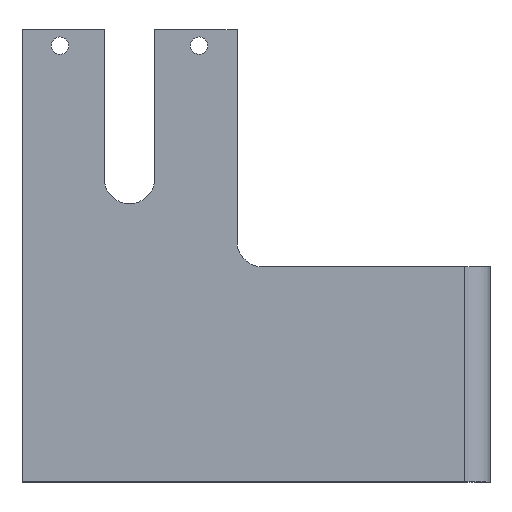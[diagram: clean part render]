
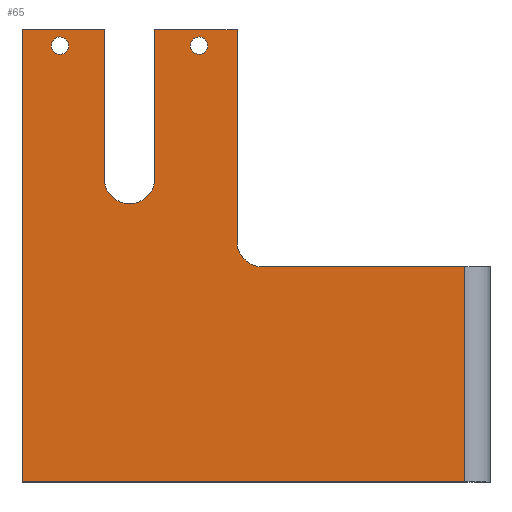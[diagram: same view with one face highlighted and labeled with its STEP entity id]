
A CAD part, top view. The second image highlights one B-rep face of the part: STEP entity #65.
In plain terms, the highlighted planar face has unit normal (0, 0, 1).
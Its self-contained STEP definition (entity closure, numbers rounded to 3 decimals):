
#65=ADVANCED_FACE('',(#172,#174,#176),#178,.F.);
#172=FACE_BOUND('',#173,.T.);
#173=EDGE_LOOP('',(#329));
#174=FACE_BOUND('',#175,.T.);
#175=EDGE_LOOP('',(#330));
#176=FACE_OUTER_BOUND('',#177,.T.);
#177=EDGE_LOOP('',(#331,#332,#333,#334,#335,#336,#337,#338,#339,#340,#341));
#178=PLANE('',#179);
#179=AXIS2_PLACEMENT_3D('',#180,#181,#182);
#180=CARTESIAN_POINT('',(0.,0.,4.));
#181=DIRECTION('',(0.,0.,-1.));
#182=DIRECTION('',(-1.,0.,0.));
#329=ORIENTED_EDGE('',*,*,#405,.T.);
#330=ORIENTED_EDGE('',*,*,#403,.T.);
#331=ORIENTED_EDGE('',*,*,#430,.F.);
#332=ORIENTED_EDGE('',*,*,#412,.T.);
#333=ORIENTED_EDGE('',*,*,#414,.T.);
#334=ORIENTED_EDGE('',*,*,#415,.T.);
#335=ORIENTED_EDGE('',*,*,#417,.T.);
#336=ORIENTED_EDGE('',*,*,#419,.T.);
#337=ORIENTED_EDGE('',*,*,#422,.T.);
#338=ORIENTED_EDGE('',*,*,#423,.F.);
#339=ORIENTED_EDGE('',*,*,#426,.F.);
#340=ORIENTED_EDGE('',*,*,#431,.F.);
#341=ORIENTED_EDGE('',*,*,#408,.F.);
#403=EDGE_CURVE('',#477,#477,#478,.T.);
#405=EDGE_CURVE('',#480,#480,#481,.T.);
#408=EDGE_CURVE('',#483,#485,#486,.T.);
#412=EDGE_CURVE('',#488,#490,#492,.T.);
#414=EDGE_CURVE('',#490,#493,#495,.T.);
#415=EDGE_CURVE('',#493,#496,#497,.F.);
#417=EDGE_CURVE('',#496,#499,#500,.T.);
#419=EDGE_CURVE('',#499,#502,#503,.F.);
#422=EDGE_CURVE('',#502,#505,#507,.T.);
#423=EDGE_CURVE('',#508,#505,#509,.T.);
#426=EDGE_CURVE('',#511,#508,#513,.T.);
#430=EDGE_CURVE('',#488,#483,#519,.T.);
#431=EDGE_CURVE('',#485,#511,#520,.T.);
#477=VERTEX_POINT('',#606);
#478=CIRCLE('',#607,2.75);
#480=VERTEX_POINT('',#614);
#481=CIRCLE('',#615,2.75);
#483=VERTEX_POINT('',#622);
#485=VERTEX_POINT('',#626);
#486=LINE('',#627,#628);
#488=VERTEX_POINT('',#633);
#490=VERTEX_POINT('',#637);
#492=LINE('',#641,#642);
#493=VERTEX_POINT('',#644);
#495=LINE('',#648,#649);
#496=VERTEX_POINT('',#651);
#497=LINE('',#652,#653);
#499=VERTEX_POINT('',#658);
#500=CIRCLE('',#659,8.);
#502=VERTEX_POINT('',#666);
#503=LINE('',#667,#668);
#505=VERTEX_POINT('',#673);
#507=LINE('',#677,#678);
#508=VERTEX_POINT('',#680);
#509=LINE('',#681,#682);
#511=VERTEX_POINT('',#687);
#513=LINE('',#691,#692);
#519=CIRCLE('',#707,8.);
#520=LINE('',#711,#712);
#606=CARTESIAN_POINT('',(-58.75,-5.,4.));
#607=AXIS2_PLACEMENT_3D('',#608,#609,#610);
#608=CARTESIAN_POINT('',(-56.,-5.,4.));
#609=DIRECTION('',(0.,0.,-1.));
#610=DIRECTION('',(-1.,0.,0.));
#614=CARTESIAN_POINT('',(-14.75,-5.,4.));
#615=AXIS2_PLACEMENT_3D('',#616,#617,#618);
#616=CARTESIAN_POINT('',(-12.,-5.,4.));
#617=DIRECTION('',(0.,0.,-1.));
#618=DIRECTION('',(-1.,0.,0.));
#622=CARTESIAN_POINT('',(8.,-75.,4.));
#626=CARTESIAN_POINT('',(72.,-75.,4.));
#627=CARTESIAN_POINT('',(8.,-75.,4.));
#628=VECTOR('',#629,1.);
#629=DIRECTION('',(1.,0.,0.));
#633=CARTESIAN_POINT('',(0.,-67.,4.));
#637=CARTESIAN_POINT('',(0.,0.,4.));
#641=CARTESIAN_POINT('',(0.,-67.,4.));
#642=VECTOR('',#643,1.);
#643=DIRECTION('',(0.,1.,0.));
#644=CARTESIAN_POINT('',(-26.,0.,4.));
#648=CARTESIAN_POINT('',(0.,0.,4.));
#649=VECTOR('',#650,1.);
#650=DIRECTION('',(-1.,0.,0.));
#651=CARTESIAN_POINT('',(-26.,-47.,4.));
#652=CARTESIAN_POINT('',(-26.,-47.,4.));
#653=VECTOR('',#654,1.);
#654=DIRECTION('',(0.,1.,0.));
#658=CARTESIAN_POINT('',(-42.,-47.,4.));
#659=AXIS2_PLACEMENT_3D('',#660,#661,#662);
#660=CARTESIAN_POINT('',(-34.,-47.,4.));
#661=DIRECTION('',(0.,-0.,-1.));
#662=DIRECTION('',(1.,0.,0.));
#666=CARTESIAN_POINT('',(-42.,0.,4.));
#667=CARTESIAN_POINT('',(-42.,0.,4.));
#668=VECTOR('',#669,1.);
#669=DIRECTION('',(0.,-1.,0.));
#673=CARTESIAN_POINT('',(-68.,0.,4.));
#677=CARTESIAN_POINT('',(-42.,0.,4.));
#678=VECTOR('',#679,1.);
#679=DIRECTION('',(-1.,0.,0.));
#680=CARTESIAN_POINT('',(-68.,-143.,4.));
#681=CARTESIAN_POINT('',(-68.,-143.,4.));
#682=VECTOR('',#683,1.);
#683=DIRECTION('',(0.,1.,0.));
#687=CARTESIAN_POINT('',(72.,-143.,4.));
#691=CARTESIAN_POINT('',(72.,-143.,4.));
#692=VECTOR('',#693,1.);
#693=DIRECTION('',(-1.,0.,0.));
#707=AXIS2_PLACEMENT_3D('',#708,#709,#710);
#708=CARTESIAN_POINT('',(8.,-67.,4.));
#709=DIRECTION('',(0.,0.,1.));
#710=DIRECTION('',(-1.,0.,0.));
#711=CARTESIAN_POINT('',(72.,-75.,4.));
#712=VECTOR('',#713,1.);
#713=DIRECTION('',(0.,-1.,0.));
